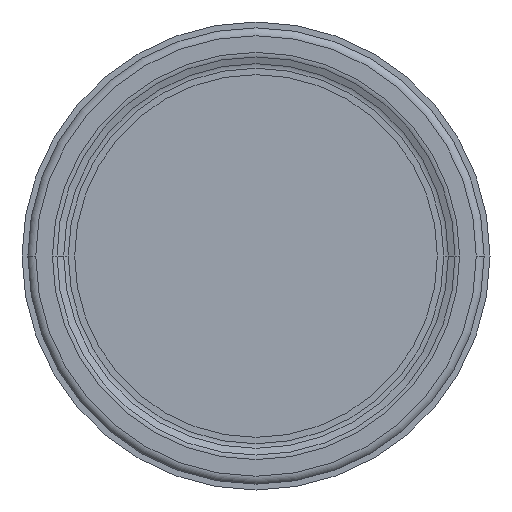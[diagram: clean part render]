
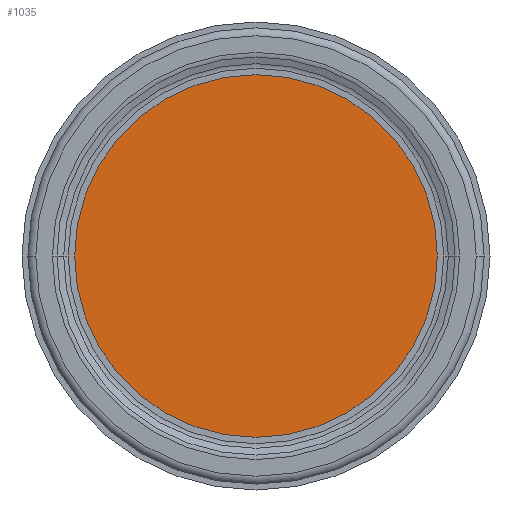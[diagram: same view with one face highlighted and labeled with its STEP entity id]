
A CAD part, front view. The second image highlights one B-rep face of the part: STEP entity #1035.
In plain terms, the highlighted planar face has unit normal (0, -1, 0).
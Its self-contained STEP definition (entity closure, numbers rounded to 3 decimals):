
#299=CARTESIAN_POINT('',(0.,-0.7,0.));
#300=DIRECTION('',(0.,-1.,0.));
#301=DIRECTION('',(1.,0.,0.));
#302=AXIS2_PLACEMENT_3D('',#299,#300,#301);
#308=CARTESIAN_POINT('',(0.,-0.7,0.));
#309=DIRECTION('',(0.,1.,0.));
#310=DIRECTION('',(1.,0.,0.));
#311=AXIS2_PLACEMENT_3D('',#308,#309,#310);
#357=CARTESIAN_POINT('',(31.,-0.7,0.));
#358=CARTESIAN_POINT('',(-31.,-0.7,0.));
#359=VERTEX_POINT('',#357);
#360=VERTEX_POINT('',#358);
#1026=CARTESIAN_POINT('',(0.,-0.7,0.));
#1027=DIRECTION('',(0.,-1.,0.));
#1028=DIRECTION('',(-1.,0.,0.));
#1029=AXIS2_PLACEMENT_3D('',#1026,#1027,#1028);
#1030=PLANE('',#1029);
#1031=ORIENTED_EDGE('',*,*,#992,.F.);
#1032=ORIENTED_EDGE('',*,*,#1013,.T.);
#1033=EDGE_LOOP('',(#1031,#1032));
#1034=FACE_OUTER_BOUND('',#1033,.F.);
#303=CIRCLE('',#302,31.);
#312=CIRCLE('',#311,31.);
#992=EDGE_CURVE('',#359,#360,#303,.T.);
#1013=EDGE_CURVE('',#359,#360,#312,.T.);
#1035=ADVANCED_FACE('',(#1034),#1030,.T.);
